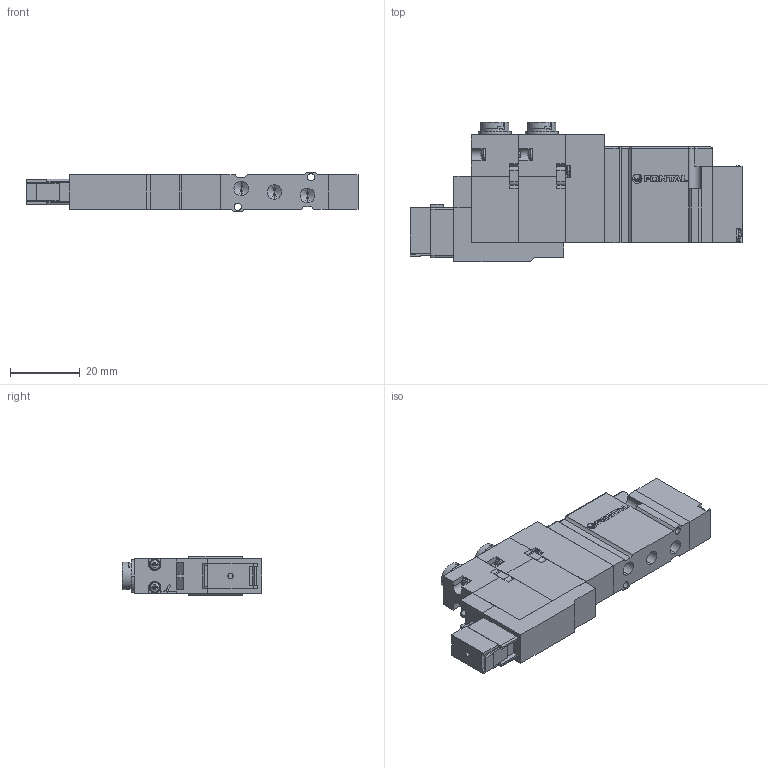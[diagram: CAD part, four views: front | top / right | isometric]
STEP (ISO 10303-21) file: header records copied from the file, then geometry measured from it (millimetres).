
FILE_DESCRIPTION (( 'STEP AP203' ), '1' );
FILE_NAME ('A05FD25#-#-#-E.STEP', '2016-02-15T06:08:27', ( 'Sam Lin' ), ( '' ), 'SwSTEP 2.0', 'SolidWorks 2013', '' );
FILE_SCHEMA (( 'CONFIG_CONTROL_DESIGN' ));
Length unit declared in the file: metre
Products named in the file (14): DC24-A05F-2; ISO 7045 - M1.6 x 10; A05FS25-6; mark-ADEX-A05RS; A05FS25-2; A05RS25-3; A05FS25-5; A05RS25-4; A05FD25#-#-#-E; A05RS25-5; A05RS25-6; DC24-A05F-1; DC24-A05G-3; A05RS25-1
Assembly tree (26 placements, depth 2):
  A05FD25#-#-#-E
    A05RS25-1
    ISO 7045 - M1.6 x 10  x8
    mark-ADEX-A05RS
    A05RS25-3  x2
    A05RS25-4  x2
    A05RS25-5  x2
    A05RS25-6  x4
    DC24-A05F-1
    DC24-A05G-3
    DC24-A05F-2
    A05FS25-6
    A05FS25-2
    A05FS25-5
Bounding box: 95.3 x 40.1 x 11.4 mm (x, y, z)
Volume: 24294.4 mm3; surface area: 15538.1 mm2
Topology: 34 solids, 34 shells, 892 faces, 2276 edges, 1444 vertices
Faces by surface type: plane 566, cylinder 174, cone 86, bspline 66
Entity records: 16388 total; most frequent: CARTESIAN_POINT 3264, ORIENTED_EDGE 2354, DIRECTION 2297, EDGE_CURVE 1177, LINE 857, VECTOR 857, VERTEX_POINT 771, AXIS2_PLACEMENT_3D 720
